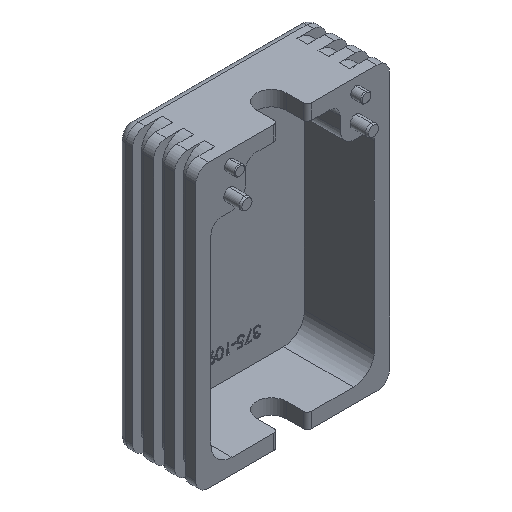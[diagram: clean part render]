
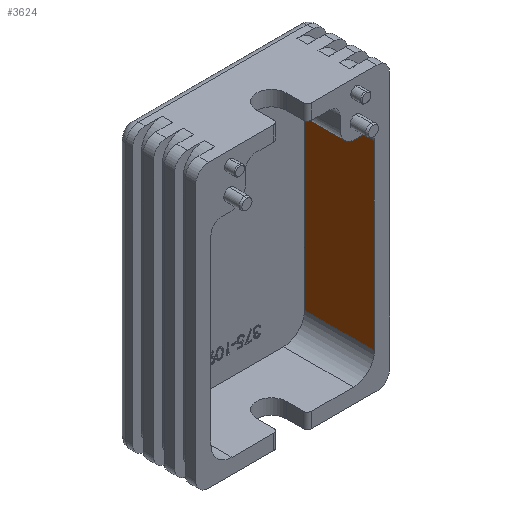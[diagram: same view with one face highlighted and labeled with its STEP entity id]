
A CAD part, isometric view. The second image highlights one B-rep face of the part: STEP entity #3624.
In plain terms, the highlighted planar face has unit normal (-1, 0, 0).
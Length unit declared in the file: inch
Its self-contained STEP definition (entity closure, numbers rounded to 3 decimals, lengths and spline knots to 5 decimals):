
#401 = LINE ( 'NONE', #14629, #2812 ) ;
#1116 = VERTEX_POINT ( 'NONE', #15230 ) ;
#2251 = ORIENTED_EDGE ( 'NONE', *, *, #8570, .T. ) ;
#2338 = ORIENTED_EDGE ( 'NONE', *, *, #13308, .F. ) ;
#2812 = VECTOR ( 'NONE', #3422, 39.37008 ) ;
#3028 = LINE ( 'NONE', #6892, #12477 ) ;
#3422 = DIRECTION ( 'NONE',  ( 0., 0., 1. ) ) ;
#3514 = VECTOR ( 'NONE', #12170, 39.37008 ) ;
#3624 = ADVANCED_FACE ( 'NONE', ( #15839 ), #15753, .T. ) ;
#4219 = LINE ( 'NONE', #4475, #3514 ) ;
#4475 = CARTESIAN_POINT ( 'NONE',  ( 0.97, 0., -1.245 ) ) ;
#5422 = CARTESIAN_POINT ( 'NONE',  ( 0.97, 0.93, -1.675 ) ) ;
#5709 = ORIENTED_EDGE ( 'NONE', *, *, #11701, .F. ) ;
#6150 = CARTESIAN_POINT ( 'NONE',  ( 0.97, 0.83, 0.9125 ) ) ;
#6892 = CARTESIAN_POINT ( 'NONE',  ( 0.97, -0.78922, 0.9125 ) ) ;
#7190 = EDGE_LOOP ( 'NONE', ( #2338, #2251, #5709, #15326 ) ) ;
#7449 = VERTEX_POINT ( 'NONE', #6150 ) ;
#7723 = EDGE_CURVE ( 'NONE', #14412, #16714, #4219, .T. ) ;
#8570 = EDGE_CURVE ( 'NONE', #1116, #7449, #3028, .T. ) ;
#9225 = CARTESIAN_POINT ( 'NONE',  ( 0.97, 0.83, -1.245 ) ) ;
#10624 = DIRECTION ( 'NONE',  ( 0., 1., 0. ) ) ;
#10722 = AXIS2_PLACEMENT_3D ( 'NONE', #5422, #13333, #13162 ) ;
#11446 = CARTESIAN_POINT ( 'NONE',  ( 0.97, 0., -1.245 ) ) ;
#11701 = EDGE_CURVE ( 'NONE', #14412, #7449, #401, .T. ) ;
#12170 = DIRECTION ( 'NONE',  ( 0., -1., 0. ) ) ;
#12477 = VECTOR ( 'NONE', #10624, 39.37008 ) ;
#13102 = VECTOR ( 'NONE', #13732, 39.37008 ) ;
#13162 = DIRECTION ( 'NONE',  ( 0., 0., 1. ) ) ;
#13308 = EDGE_CURVE ( 'NONE', #1116, #16714, #13813, .T. ) ;
#13333 = DIRECTION ( 'NONE',  ( -1., 0., 0. ) ) ;
#13732 = DIRECTION ( 'NONE',  ( 0., 0., -1. ) ) ;
#13813 = LINE ( 'NONE', #16073, #13102 ) ;
#14412 = VERTEX_POINT ( 'NONE', #9225 ) ;
#14629 = CARTESIAN_POINT ( 'NONE',  ( 0.97, 0.83, -1.245 ) ) ;
#15230 = CARTESIAN_POINT ( 'NONE',  ( 0.97, 0., 0.9125 ) ) ;
#15326 = ORIENTED_EDGE ( 'NONE', *, *, #7723, .T. ) ;
#15753 = PLANE ( 'NONE',  #10722 ) ;
#15839 = FACE_OUTER_BOUND ( 'NONE', #7190, .T. ) ;
#16073 = CARTESIAN_POINT ( 'NONE',  ( 0.97, 0., -1.675 ) ) ;
#16714 = VERTEX_POINT ( 'NONE', #11446 ) ;
